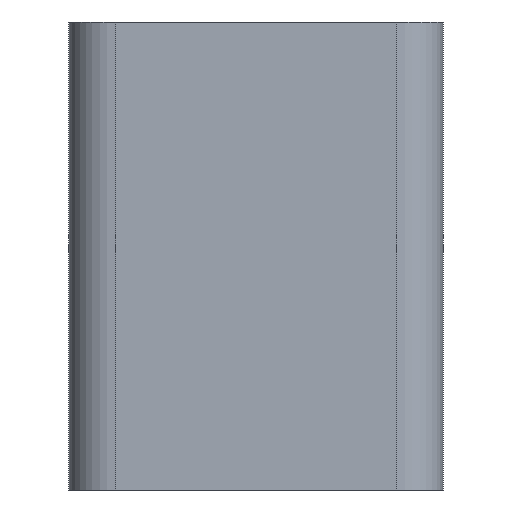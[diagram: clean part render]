
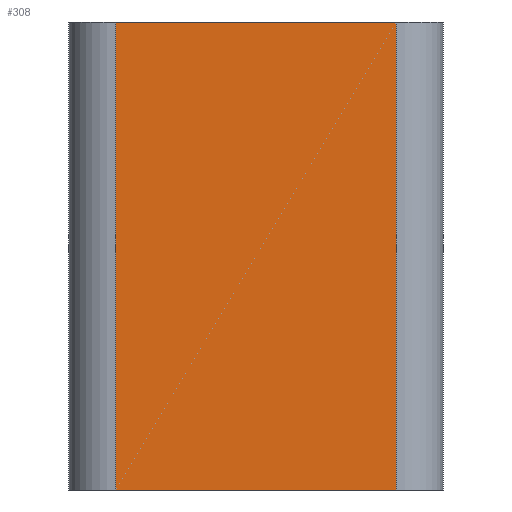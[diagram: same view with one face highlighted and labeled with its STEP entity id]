
A CAD part, left-side view. The second image highlights one B-rep face of the part: STEP entity #308.
In plain terms, the highlighted planar face has unit normal (-1, 0, 0).
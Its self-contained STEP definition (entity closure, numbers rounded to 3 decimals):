
#15 = CARTESIAN_POINT ( 'NONE',  ( -0.5, 0.35, -0.25 ) ) ;
#16 = VERTEX_POINT ( 'NONE', #15 ) ;
#26 = CARTESIAN_POINT ( 'NONE',  ( -0.5, 0.35, 0.25 ) ) ;
#27 = VERTEX_POINT ( 'NONE', #26 ) ;
#28 = CARTESIAN_POINT ( 'NONE',  ( -0.5, 0.35, -0.25 ) ) ;
#29 = DIRECTION ( 'NONE',  ( 0., 0., -1. ) ) ;
#30 = VECTOR ( 'NONE', #29, 1000. ) ;
#31 = LINE ( 'NONE', #28, #30 ) ;
#32 = EDGE_CURVE ( 'NONE', #27, #16, #31, .T. ) ;
#278 = CARTESIAN_POINT ( 'NONE',  ( -0.5, 0.05, -0.25 ) ) ;
#279 = VERTEX_POINT ( 'NONE', #278 ) ;
#280 = CARTESIAN_POINT ( 'NONE',  ( -0.5, 0.4, -0.25 ) ) ;
#281 = DIRECTION ( 'NONE',  ( 0., -1., 0. ) ) ;
#282 = VECTOR ( 'NONE', #281, 1000. ) ;
#283 = LINE ( 'NONE', #280, #282 ) ;
#284 = EDGE_CURVE ( 'NONE', #16, #279, #283, .T. ) ;
#285 = ORIENTED_EDGE ( 'NONE', *, *, #284, .T. ) ;
#286 = CARTESIAN_POINT ( 'NONE',  ( -0.5, 0.05, 0.25 ) ) ;
#287 = VERTEX_POINT ( 'NONE', #286 ) ;
#288 = CARTESIAN_POINT ( 'NONE',  ( -0.5, 0.05, -0.25 ) ) ;
#289 = DIRECTION ( 'NONE',  ( 0., 0., 1. ) ) ;
#290 = VECTOR ( 'NONE', #289, 1000. ) ;
#291 = LINE ( 'NONE', #288, #290 ) ;
#292 = EDGE_CURVE ( 'NONE', #279, #287, #291, .T. ) ;
#293 = ORIENTED_EDGE ( 'NONE', *, *, #292, .T. ) ;
#294 = CARTESIAN_POINT ( 'NONE',  ( -0.5, 0.4, 0.25 ) ) ;
#295 = DIRECTION ( 'NONE',  ( 0., -1., 0. ) ) ;
#296 = VECTOR ( 'NONE', #295, 1000. ) ;
#297 = LINE ( 'NONE', #294, #296 ) ;
#298 = EDGE_CURVE ( 'NONE', #27, #287, #297, .T. ) ;
#299 = ORIENTED_EDGE ( 'NONE', *, *, #298, .F. ) ;
#300 = ORIENTED_EDGE ( 'NONE', *, *, #32, .T. ) ;
#301 = EDGE_LOOP ( 'NONE', ( #285, #293, #299, #300 ) ) ;
#302 = FACE_OUTER_BOUND ( 'NONE', #301, .T. ) ;
#303 = CARTESIAN_POINT ( 'NONE',  ( -0.5, 0.4, -0.25 ) ) ;
#304 = DIRECTION ( 'NONE',  ( -1., 0., 0. ) ) ;
#305 = DIRECTION ( 'NONE',  ( 0., -1., 0. ) ) ;
#306 = AXIS2_PLACEMENT_3D ( 'NONE', #303, #304, #305 ) ;
#307 = PLANE ( 'NONE', #306 ) ;
#308 = ADVANCED_FACE ( 'NONE', ( #302 ), #307, .T. ) ;
